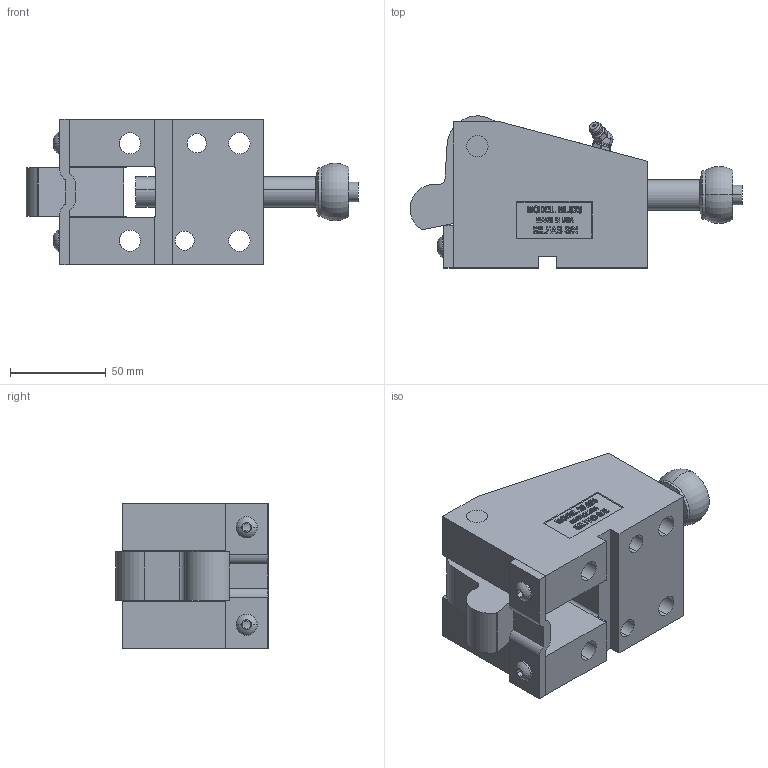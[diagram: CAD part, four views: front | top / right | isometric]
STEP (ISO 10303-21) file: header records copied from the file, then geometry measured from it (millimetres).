
FILE_DESCRIPTION (( 'STEP AP214' ), '1' );
FILE_NAME ('ML62545-C.STEP', '2014-01-07T20:30:39', ( 'user' ), ( '' ), 'SwSTEP 2.0', 'SolidWorks 2009', '' );
FILE_SCHEMA (( 'AUTOMOTIVE_DESIGN' ));
Length unit declared in the file: inch
Products named in the file (1): ML62545-C
Bounding box: 173.31 x 79.35 x 76.2 mm (x, y, z)
Surface area: 78265.6 mm2 (no closed solid volume)
Topology: 0 solids, 12 shells, 457 faces, 1458 edges, 989 vertices
Faces by surface type: plane 270, bspline 81, cylinder 68, torus 20, cone 14, sphere 4
Entity records: 26891 total; most frequent: CARTESIAN_POINT 8847, ORIENTED_EDGE 2529, DIRECTION 2142, EDGE_CURVE 1456, VERTEX_POINT 989, VECTOR 956, LINE 956, AXIS2_PLACEMENT_3D 593
